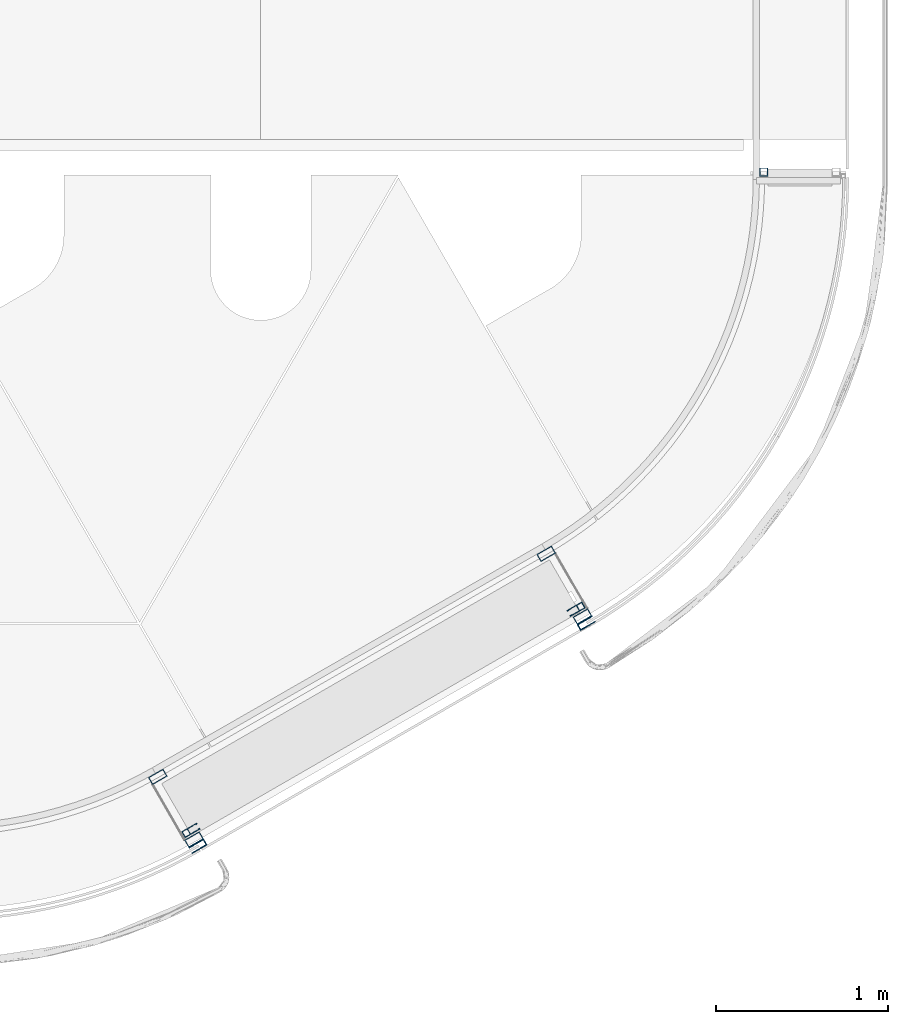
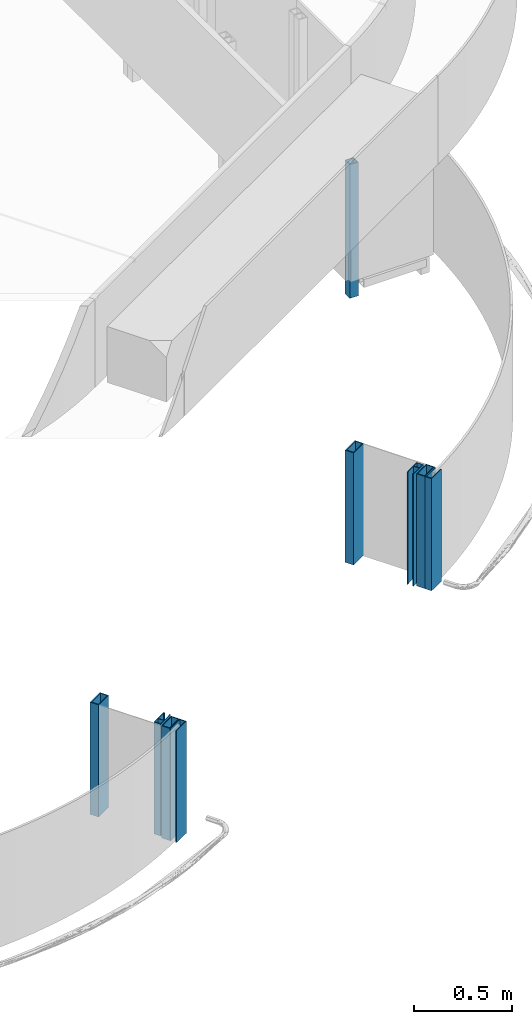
# One storey, part 3 of 18: 9 columns, 4 openings.
"""IFC2X3 building model written with IfcOpenShell, lengths in millimetres."""

import ifcopenshell
import ifcopenshell.guid

model = None  # the IFC model being written
_history = None  # IfcOwnerHistory: only IFC2X3 demands one
_inside = {}  # id of a spatial element -> (the spatial element, [elements in it])
_under = {}  # id of a project, library or spatial element -> (it, [spatial elements below it])
_declared = {}  # id of a project -> (the project, [libraries it declares])
_typed = {}  # id of a type object -> (the type object, [elements of that type])
_made_of = {}  # id of a material, layer set ... -> (it, [elements and type objects made of it])


def new_model(schema):
    """Start an empty IFC model of exactly this schema.

    Asked for "IFC4X3", IfcOpenShell would pick the latest addendum, in which some entities
    have other attributes; the version numbers below select the first issue.
    IFC2X3 requires an IfcOwnerHistory on every rooted entity: one is made here for all.
    """
    global model, _history
    if schema == "IFC4X3":
        model = ifcopenshell.file(schema_version=(4, 3, 0, 0))
    else:
        model = ifcopenshell.file(schema=schema)
    _inside.clear()
    _under.clear()
    _declared.clear()
    _typed.clear()
    _made_of.clear()
    _history = None
    if model.schema == "IFC2X3":
        org = make("IfcOrganization", Name="unknown")
        user = make(
            "IfcPersonAndOrganization",
            ThePerson=make("IfcPerson", FamilyName="unknown"),
            TheOrganization=org,
        )
        app = make(
            "IfcApplication",
            ApplicationDeveloper=org,
            Version="unknown",
            ApplicationFullName="unknown",
            ApplicationIdentifier="unknown",
        )
        _history = make(
            "IfcOwnerHistory",
            OwningUser=user,
            OwningApplication=app,
            ChangeAction="ADDED",
            CreationDate=0,
        )
    return model


def make(cls, **values):
    """One entity of the class cls with the attributes given. An attribute that is None is left unset."""
    return model.create_entity(
        cls, **{name: value for name, value in values.items() if value is not None}
    )


def entity(cls, *values):
    """Any entity or typed value of the class cls, its attributes in the order of the schema. None: left unset."""
    e = model.create_entity(cls)
    for i, value in enumerate(values):
        if value is not None:
            e[i] = value
    return e


def rooted(cls, **values):
    """An entity with a GlobalId (a new one), such as an element, a storey or a relation."""
    return make(cls, GlobalId=ifcopenshell.guid.new(), OwnerHistory=_history, **values)


def si_unit(unit_type, name, prefix=None):
    """IfcSIUnit, for example si_unit("LENGTHUNIT", "METRE", prefix="MILLI")."""
    return make("IfcSIUnit", UnitType=unit_type, Prefix=prefix, Name=name)


def converted_unit(unit_type, name, factor, base, dimensions=None, offset=None):
    """IfcConversionBasedUnit, such as the inch: factor (a typed value) times the base unit."""
    return make(
        "IfcConversionBasedUnit"
        if offset is None
        else "IfcConversionBasedUnitWithOffset",
        ConversionOffset=offset,
        Dimensions=None
        if dimensions is None
        else entity("IfcDimensionalExponents", *dimensions),
        UnitType=unit_type,
        Name=name,
        ConversionFactor=make(
            "IfcMeasureWithUnit", ValueComponent=factor, UnitComponent=base
        ),
    )


def derived_unit(unit_type, elements):
    """IfcDerivedUnit: a product of units, each with its exponent."""
    return make(
        "IfcDerivedUnit",
        Elements=[
            make("IfcDerivedUnitElement", Unit=unit, Exponent=power)
            for unit, power in elements
        ],
        UnitType=unit_type,
    )


def assignment(units):
    """IfcUnitAssignment: the units of a project."""
    return None if units is None else make("IfcUnitAssignment", Units=units)


def point(xyz):
    """IfcCartesianPoint."""
    return None if xyz is None else make("IfcCartesianPoint", Coordinates=xyz)


def direction(xyz):
    """IfcDirection."""
    return None if xyz is None else make("IfcDirection", DirectionRatios=xyz)


def frame(location, z_axis=None, x_axis=None):
    """IfcAxis2Placement3D, a coordinate frame: its origin and axes. An axis left out is left unset."""
    return make(
        "IfcAxis2Placement3D",
        Location=point(location),
        Axis=direction(z_axis),
        RefDirection=direction(x_axis),
    )


def frame_2d(location, x_axis=None):
    """IfcAxis2Placement2D, a coordinate frame in the plane: its origin and x axis."""
    return make(
        "IfcAxis2Placement2D", Location=point(location), RefDirection=direction(x_axis)
    )


def origin():
    """The frame at (0, 0, 0) with its axes left unset."""
    return frame((0.0, 0.0, 0.0))


def origin_with_axes():
    """The frame at (0, 0, 0) with the z axis (0, 0, 1) and the x axis (1, 0, 0) written out."""
    return frame((0.0, 0.0, 0.0), z_axis=(0.0, 0.0, 1.0), x_axis=(1.0, 0.0, 0.0))


def origin_2d_with_axis():
    """The frame at (0, 0) in the plane with the x axis (1, 0) written out."""
    return frame_2d((0.0, 0.0), x_axis=(1.0, 0.0))


def place(relative_to, where):
    """IfcLocalPlacement: puts the frame where relative to a parent placement (None: the world)."""
    return make(
        "IfcLocalPlacement", PlacementRelTo=relative_to, RelativePlacement=where
    )


def context(
    kind, dimensions, precision=None, world=None, true_north=None, identifier=None
):
    """IfcGeometricRepresentationContext, for example the 3D "Model" context."""
    return make(
        "IfcGeometricRepresentationContext",
        ContextIdentifier=identifier,
        ContextType=kind,
        CoordinateSpaceDimension=dimensions,
        Precision=precision,
        WorldCoordinateSystem=world,
        TrueNorth=true_north,
    )


def subcontext(parent, identifier, kind, view, scale=None):
    """IfcGeometricRepresentationSubContext, for example "Body" below "Model"."""
    return make(
        "IfcGeometricRepresentationSubContext",
        ContextIdentifier=identifier,
        ContextType=kind,
        ParentContext=parent,
        TargetScale=scale,
        TargetView=view,
    )


def project(units=None, contexts=None):
    """IfcProject with its units and contexts."""
    return rooted(
        "IfcProject",
        Name="project",
        RepresentationContexts=contexts,
        UnitsInContext=assignment(units),
    )


def spatial(cls, under=None, at=None, **own):
    """A site, building, storey or space (cls), placed at a placement, below another one or the project."""
    s = rooted(cls, ObjectPlacement=at, **own)
    if under is not None:
        _under.setdefault(under.id(), (under, []))[1].append(s)
    return s


def polyline(points):
    """IfcPolyline through the points."""
    return make("IfcPolyline", Points=[point(p) for p in points])


def profile(cls, at=None, kind="AREA", **sizes):
    """A parametric profile (cls). Its sizes go by their IFC names, for example OverallWidth=200.0."""
    return make(cls, ProfileType=kind, Position=at, **sizes)


def rectangle(**sizes):
    """IfcRectangleProfileDef."""
    return profile("IfcRectangleProfileDef", **sizes)


def outline(outer, holes=None, kind="AREA"):
    """IfcArbitraryClosedProfileDef: a profile drawn as a closed curve; with holes, ...WithVoids."""
    if holes is None:
        return make("IfcArbitraryClosedProfileDef", ProfileType=kind, OuterCurve=outer)
    return make(
        "IfcArbitraryProfileDefWithVoids",
        ProfileType=kind,
        OuterCurve=outer,
        InnerCurves=holes,
    )


def extrude(swept, where, along, depth):
    """IfcExtrudedAreaSolid: the profile swept, set in the frame where, extruded along a direction by depth."""
    return make(
        "IfcExtrudedAreaSolid",
        SweptArea=swept,
        Position=where,
        ExtrudedDirection=direction(along),
        Depth=depth,
    )


def faces_of(points, faces, orient=None, outer=None):
    """IfcFace entities. A face is a list of loops; a loop is a list of indices into points, from 0.

    orient and outer hold one flag for each loop. By default every Orientation is true, the
    first loop of a face is its IfcFaceOuterBound and the others are IfcFaceBound.
    """
    made = []
    for i, loops in enumerate(faces):
        bounds = []
        for j, loop in enumerate(loops):
            is_outer = j == 0 if outer is None else outer[i][j]
            bounds.append(
                make(
                    "IfcFaceOuterBound" if is_outer else "IfcFaceBound",
                    Bound=make("IfcPolyLoop", Polygon=[points[k] for k in loop]),
                    Orientation=True if orient is None else orient[i][j],
                )
            )
        made.append(make("IfcFace", Bounds=bounds))
    return made


def faceted_brep(points, faces, orient=None, outer=None, voids=None):
    """IfcFacetedBrep: a solid bounded by flat faces; with voids (closed shells), ...WithVoids."""
    shared = [point(p) for p in points]
    hull = make("IfcClosedShell", CfsFaces=faces_of(shared, faces, orient, outer))
    if voids is None:
        return make("IfcFacetedBrep", Outer=hull)
    return make(
        "IfcFacetedBrepWithVoids",
        Outer=hull,
        Voids=[
            make(cls, CfsFaces=faces_of(shared, fs, o, b)) for cls, fs, o, b in voids
        ],
    )


def shape(context_of_items, identifier, shape_type, items):
    """IfcShapeRepresentation: the items that make up one representation, for example the "Body"."""
    return make(
        "IfcShapeRepresentation",
        ContextOfItems=context_of_items,
        RepresentationIdentifier=identifier,
        RepresentationType=shape_type,
        Items=items,
    )


def source(mapping_origin, context_of_items, identifier, shape_type, items):
    """IfcRepresentationMap: a shape defined once, which mapped items show again and again."""
    return make(
        "IfcRepresentationMap",
        MappingOrigin=mapping_origin,
        MappedRepresentation=shape(context_of_items, identifier, shape_type, items),
    )


def transform(
    local_origin,
    x_axis=None,
    y_axis=None,
    z_axis=None,
    scale=None,
    scale2=None,
    scale3=None,
    uniform=True,
):
    """IfcCartesianTransformationOperator3D, or its non-uniform kind. x_axis, y_axis, z_axis: its Axis1, 2, 3."""
    if uniform:
        return make(
            "IfcCartesianTransformationOperator3D",
            Axis1=direction(x_axis),
            Axis2=direction(y_axis),
            LocalOrigin=point(local_origin),
            Scale=scale,
            Axis3=direction(z_axis),
        )
    return make(
        "IfcCartesianTransformationOperator3DnonUniform",
        Axis1=direction(x_axis),
        Axis2=direction(y_axis),
        LocalOrigin=point(local_origin),
        Scale=scale,
        Axis3=direction(z_axis),
        Scale2=scale2,
        Scale3=scale3,
    )


def mapped(mapping_source, mapping_target):
    """IfcMappedItem: shows the shape of a source again, moved by a transform."""
    return make(
        "IfcMappedItem", MappingSource=mapping_source, MappingTarget=mapping_target
    )


def material(Name=None, Category=None):
    """IfcMaterial."""
    return make("IfcMaterial", Name=Name, Category=Category)


def made_of(thing, what):
    """Note that an element or type object is made of a material, layer set ...; save() writes the relation."""
    if what is not None:
        _made_of.setdefault(what.id(), (what, []))[1].append(thing)
    return thing


def type_object(cls, material=None, **own):
    """A type object (cls), such as IfcWallType, which elements share."""
    return made_of(rooted(cls, **own), material)


def element(
    cls,
    number,
    at=None,
    inside=None,
    cuts=None,
    type_object=None,
    material=None,
    context=None,
    identifier="Body",
    shape_type=None,
    held_by="IfcProductDefinitionShape",
    body=None,
    shapes=None,
    **own,
):
    """One element of the class cls, such as IfcWall. Its Tag is "e" and its number.

    at: its placement. inside: the storey or other place that contains it. cuts: it is an
    opening in that element (IfcRelVoidsElement). A single representation is given by context,
    identifier, shape_type and body (its items); several are given by shapes. held_by: the class
    of the entity that holds the representations. save() writes the other relations.
    """
    e = rooted(cls, Tag="e%d" % number, ObjectPlacement=at, **own)
    if body is not None:
        shapes = [shape(context, identifier, shape_type, body)]
    if shapes is not None:
        e.Representation = make(held_by, Representations=shapes)
    if inside is not None:
        _inside.setdefault(inside.id(), (inside, []))[1].append(e)
    if cuts is not None:
        rooted(
            "IfcRelVoidsElement", RelatingBuildingElement=cuts, RelatedOpeningElement=e
        )
    if type_object is not None:
        _typed.setdefault(type_object.id(), (type_object, []))[1].append(e)
    return made_of(e, material)


def aggregate(whole, parts):
    """IfcRelAggregates: a whole, such as a stair, and the parts it consists of."""
    return rooted("IfcRelAggregates", RelatingObject=whole, RelatedObjects=parts)


def save(model, path):
    """Write the relations noted so far, then the file.

    IfcRelAggregates (storeys below a building ...), IfcRelContainedInSpatialStructure (elements
    in a storey), IfcRelDefinesByType, IfcRelAssociatesMaterial and IfcRelDeclares: one each for
    every whole, place, type object, material and project.
    """
    for whole, parts in _under.values():
        aggregate(whole, parts)
    for where, things in _inside.values():
        rooted(
            "IfcRelContainedInSpatialStructure",
            RelatedElements=things,
            RelatingStructure=where,
        )
    for kind, things in _typed.values():
        rooted("IfcRelDefinesByType", RelatedObjects=things, RelatingType=kind)
    for what, things in _made_of.values():
        rooted("IfcRelAssociatesMaterial", RelatedObjects=things, RelatingMaterial=what)
    for by, libraries in _declared.values():
        rooted("IfcRelDeclares", RelatingContext=by, RelatedDefinitions=libraries)
    model.write(path)


model = new_model("IFC2X3")

# Units and contexts
model_context = context("Model", 3, precision=0.01, world=frame((0.0, 4.29681676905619e-09, 0.0)), true_north=direction((4.01073788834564e-13, 1.0)))
plan_context = context("Plan", 3, precision=0.01, world=frame((0.0, 4.29681676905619e-09, 0.0)), true_north=direction((4.01073788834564e-13, 1.0)))
body_context = subcontext(model_context, "Body", "Model", "MODEL_VIEW")
ifc_project = project(units=[converted_unit("PLANEANGLEUNIT", "DEGREE", entity("IfcPositiveLengthMeasure", 0.0174532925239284), si_unit("PLANEANGLEUNIT", "RADIAN"), dimensions=[0, 0, 0, 0, 0, 0, 0]), si_unit("AREAUNIT", "SQUARE_METRE"), si_unit("LENGTHUNIT", "METRE", prefix="MILLI"), si_unit("MASSUNIT", "GRAM", prefix="KILO"), si_unit("POWERUNIT", "WATT"), si_unit("PRESSUREUNIT", "PASCAL"), si_unit("FORCEUNIT", "NEWTON", prefix="KILO"), si_unit("ELECTRICVOLTAGEUNIT", "VOLT"), si_unit("ELECTRICCURRENTUNIT", "AMPERE"), si_unit("THERMODYNAMICTEMPERATUREUNIT", "DEGREE_CELSIUS"), si_unit("TIMEUNIT", "SECOND"), si_unit("VOLUMEUNIT", "CUBIC_METRE"), derived_unit("LINEARVELOCITYUNIT", [(si_unit("LENGTHUNIT", "METRE"), 1), (si_unit("TIMEUNIT", "SECOND"), -1)]), derived_unit("VOLUMETRICFLOWRATEUNIT", [(si_unit("VOLUMEUNIT", "CUBIC_METRE"), 1), (si_unit("TIMEUNIT", "SECOND"), -1)]), derived_unit("THERMALTRANSMITTANCEUNIT", [(si_unit("POWERUNIT", "WATT"), 1), (si_unit("THERMODYNAMICTEMPERATUREUNIT", "KELVIN"), -1), (si_unit("AREAUNIT", "SQUARE_METRE"), -1)]), derived_unit("SOUNDPRESSUREUNIT", [(si_unit("PRESSUREUNIT", "PASCAL"), 1)])], contexts=[model_context, plan_context])

# Site, building, storey
site_placement = place(None, origin_with_axes())
site = spatial("IfcSite", under=ifc_project, at=site_placement, Name="ENGM", CompositionType="ELEMENT")
building_placement = place(site_placement, origin_with_axes())
building = spatial("IfcBuilding", under=site, at=building_placement, Name="TH", CompositionType="ELEMENT")
storey_placement = place(building_placement, frame((0.0, 0.0, 210200.0), z_axis=(0.0, 0.0, 1.0), x_axis=(1.0, 0.0, 0.0)))
storey = spatial("IfcBuildingStorey", under=building, at=storey_placement, Name="Nivå F - 0,7 m", CompositionType="ELEMENT", Elevation=210200.0)

# Columns
ifc_material = material(Name="_NSW Stål")
column_type_1 = type_object("IfcColumnType", Name="A243 - Rullegardinskinner:A243 - Portskinne Book Shop", PredefinedType="COLUMN", material=ifc_material)
shared_shape_1 = source(origin(), body_context, "Body", "Brep", [
    faceted_brep([(-20.0, -100.0, 210200.0), (-20.0, 0.0, 210200.0), (20.0, 0.0, 210200.0), (20.0, -100.0, 210200.0), (14.0, -100.0, 210200.0), (14.0, -90.0, 210200.0), (17.0, -90.0, 210200.0), (17.0, -38.0, 210200.0), (-17.0, -38.0, 210200.0), (-17.0, -90.0, 210200.0), (-14.0, -90.0, 210200.0), (-14.0, -100.0, 210200.0), (-17.0, -35.0, 210200.0), (17.0, -35.0, 210200.0), (17.0, -3.0, 210200.0), (-17.0, -3.0, 210200.0), (-14.0, -100.0, 210900.0), (-20.0, -100.0, 210900.0), (-14.0, -90.0, 210900.0), (-17.0, -90.0, 210900.0), (-17.0, -38.0, 210900.0), (17.0, -38.0, 210900.0), (17.0, -90.0, 210900.0), (14.0, -90.0, 210900.0), (14.0, -100.0, 210900.0), (20.0, -100.0, 210900.0), (20.0, 0.0, 210900.0), (-20.0, 0.0, 210900.0), (-17.0, -3.0, 210900.0), (-17.0, -35.0, 210900.0), (17.0, -3.0, 210900.0), (17.0, -35.0, 210900.0)], [[[0, 1, 2, 3, 4, 5, 6, 7, 8, 9, 10, 11], [12, 13, 14, 15]], [[0, 11, 16, 17]], [[11, 10, 18, 16]], [[10, 9, 19, 18]], [[9, 8, 20, 19]], [[8, 7, 21, 20]], [[7, 6, 22, 21]], [[6, 5, 23, 22]], [[5, 4, 24, 23]], [[4, 3, 25, 24]], [[3, 2, 26, 25]], [[2, 1, 27, 26]], [[1, 0, 17, 27]], [[12, 15, 28, 29]], [[15, 14, 30, 28]], [[14, 13, 31, 30]], [[13, 12, 29, 31]], [[17, 16, 18, 19, 20, 21, 22, 23, 24, 25, 26, 27], [29, 28, 30, 31]]]),
])
column_1_placement = place(storey_placement, frame((908874.102285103, 478210.13855746, -210200.0), z_axis=(0.0, 0.0, 1.0), x_axis=(0.499999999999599, -0.86602540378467, 0.0)))
element("IfcColumn", 1, at=column_1_placement, inside=storey, type_object=column_type_1, material=ifc_material, Name="A243 - Rullegardinskinner:A243 - Portskinne Book Shop", ObjectType="A243 - Rullegardinskinner:A243 - Portskinne Book Shop", context=body_context, shape_type="MappedRepresentation", body=[
    mapped(shared_shape_1, transform((0.0, 0.0, 0.0), scale=1.0)),
])
column_type_2 = type_object("IfcColumnType", Name="A241 - Glassramme Book Shop:A241 - 100x40mm", PredefinedType="COLUMN", material=ifc_material)
shared_shape_2 = source(origin(), body_context, "Body", "Brep", [
    faceted_brep([(-20.0, 50.0, 210200.0), (-15.0, 50.0, 210200.0), (-15.0, -45.0, 210200.0), (15.0, -45.0, 210200.0), (15.0, 50.0, 210200.0), (20.0, 50.0, 210200.0), (20.0, -50.0, 210200.0), (-20.0, -50.0, 210200.0), (-20.0, 50.0, 210900.0), (-15.0, 50.0, 210900.0), (-15.0, -45.0, 210900.0), (15.0, -45.0, 210900.0), (15.0, 50.0, 210900.0), (20.0, 50.0, 210900.0), (20.0, -50.0, 210900.0), (-20.0, -50.0, 210900.0)], [[[0, 1, 2, 3, 4, 5, 6, 7]], [[1, 0, 8, 9]], [[2, 1, 9, 10]], [[3, 2, 10, 11]], [[4, 3, 11, 12]], [[5, 4, 12, 13]], [[6, 5, 13, 14]], [[7, 6, 14, 15]], [[0, 7, 15, 8]], [[9, 8, 15, 14, 13, 12, 11, 10]]]),
])
column_2_placement = place(storey_placement, frame((908890.455786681, 478104.15850772, -210200.0), z_axis=(0.0, 0.0, 1.0), x_axis=(0.499999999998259, -0.866025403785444, 0.0)))
element("IfcColumn", 2, at=column_2_placement, inside=storey, type_object=column_type_2, material=ifc_material, Name="A241 - Glassramme Book Shop:A241 - 100x40mm", ObjectType="A241 - Glassramme Book Shop:A241 - 100x40mm", context=body_context, shape_type="MappedRepresentation", body=[
    mapped(shared_shape_2, transform((0.0, 0.0, 0.0), scale=1.0)),
])
column_type_3 = type_object("IfcColumnType", Name="B222 - HUP7:B222 - HUP 50x50x5", PredefinedType="COLUMN", material=ifc_material)
shared_shape_3 = source(origin(), body_context, "Body", "SweptSolid", [
    extrude(outline(polyline([(-25.0, -25.0), (25.0, -25.0), (25.0, 25.0), (-25.0, 25.0), (-25.0, -25.0)]), holes=[polyline([(-20.0, -20.0), (-20.0, 20.0), (20.0, 20.0), (20.0, -20.0), (-20.0, -20.0)])]), frame((0.0, 0.0, 210065.0), z_axis=(0.0, 0.0, 1.0), x_axis=(-1.0, 0.0, 0.0)), (0.0, 0.0, 1.0), 835.000000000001),
])
column_3_placement = place(storey_placement, frame((909920.000000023, 480720.579202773, -210200.0), z_axis=(0.0, 0.0, 1.0), x_axis=(0.0, 1.0, 0.0)))
element("IfcColumn", 3, at=column_3_placement, inside=storey, type_object=column_type_3, material=ifc_material, Name="B222 - HUP7:B222 - HUP 50x50x5", ObjectType="B222 - HUP7:B222 - HUP 50x50x5", context=body_context, shape_type="MappedRepresentation", body=[
    mapped(shared_shape_3, transform((0.0, 0.0, 0.0), scale=1.0)),
])

# Column, opening
column_type_4 = type_object("IfcColumnType", Name="B222 - HUP7:B222 - HUP 100x50x5", PredefinedType="COLUMN", material=ifc_material)
shared_shape_4 = source(origin(), body_context, "Body", "SweptSolid", [
    extrude(rectangle(XDim=700.000000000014, YDim=100.0, at=frame_2d((-1.73372427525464e-11, 0.0), x_axis=(1.0, 0.0))), frame((-25.0, 0.0, 210550.0), z_axis=(1.0, 0.0, 0.0), x_axis=(0.0, 0.0, 1.0)), (0.0, 0.0, 1.0), 50.0),
])
column_4_placement = place(storey_placement, frame((908657.956971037, 478506.858269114, -210200.0), z_axis=(0.0, 0.0, 1.0), x_axis=(-0.500000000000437, 0.866025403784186, 0.0)))
column_4 = element("IfcColumn", 4, at=column_4_placement, inside=storey, type_object=column_type_4, material=ifc_material, Name="B222 - HUP7:B222 - HUP 100x50x5", ObjectType="B222 - HUP7:B222 - HUP 100x50x5", context=body_context, shape_type="MappedRepresentation", body=[
    mapped(shared_shape_4, transform((0.0, 0.0, 0.0), scale=1.0)),
])
opening_1_placement = place(column_4_placement, frame((0.0, 0.0, 210200.0), z_axis=(0.0, 0.0, 1.0), x_axis=(-0.500000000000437, 0.866025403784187, 0.0)))
element("IfcOpeningElement", 5, at=opening_1_placement, cuts=column_4, Name="B222 - HUP7:B222 - HUP 100x50x5:1", ObjectType="Opening", context=body_context, shape_type="SweptSolid", body=[
    extrude(rectangle(XDim=90.0, YDim=39.9999999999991, at=origin_2d_with_axis()), frame((0.0, 0.0, 0.0), z_axis=(0.0, 0.0, 1.0), x_axis=(0.866025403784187, -0.500000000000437, 0.0)), (0.0, 0.0, 1.0), 700.000000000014),
])

column_type_5 = type_object("IfcColumnType", Name="B222 - HUP7:B222 - HUP 100x50x5", PredefinedType="COLUMN", material=ifc_material)
column_5_placement = place(storey_placement, frame((908867.955786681, 478143.12965089, -210200.0), z_axis=(0.0, 0.0, 1.0), x_axis=(-0.500000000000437, 0.866025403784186, 0.0)))
column_5 = element("IfcColumn", 6, at=column_5_placement, inside=storey, type_object=column_type_5, material=ifc_material, Name="B222 - HUP7:B222 - HUP 100x50x5", ObjectType="B222 - HUP7:B222 - HUP 100x50x5", context=body_context, shape_type="MappedRepresentation", body=[
    mapped(shared_shape_4, transform((0.0, 0.0, 0.0), scale=1.0)),
])
opening_2_placement = place(column_5_placement, frame((0.0, 0.0, 210200.0), z_axis=(0.0, 0.0, 1.0), x_axis=(-0.500000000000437, 0.866025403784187, 0.0)))
element("IfcOpeningElement", 7, at=opening_2_placement, cuts=column_5, Name="B222 - HUP7:B222 - HUP 100x50x5:1", ObjectType="Opening", context=body_context, shape_type="SweptSolid", body=[
    extrude(rectangle(XDim=90.0, YDim=39.9999999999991, at=origin_2d_with_axis()), frame((0.0, 0.0, 0.0), z_axis=(0.0, 0.0, 1.0), x_axis=(0.866025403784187, -0.500000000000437, 0.0)), (0.0, 0.0, 1.0), 700.000000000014),
])

# Columns
column_type_6 = type_object("IfcColumnType", Name="A243 - Rullegardinskinner:A243 - Portskinne Book Shop", PredefinedType="COLUMN", material=ifc_material)
shared_shape_5 = source(origin(), body_context, "Body", "Brep", [
    faceted_brep([(-20.0, 100.0, 210200.0), (-14.0, 100.0, 210200.0), (-14.0, 90.0, 210200.0), (-17.0, 90.0, 210200.0), (-17.0, 38.0, 210200.0), (17.0, 38.0, 210200.0), (17.0, 90.0, 210200.0), (14.0, 90.0, 210200.0), (14.0, 100.0, 210200.0), (20.0, 100.0, 210200.0), (20.0, 0.0, 210200.0), (-20.0, 0.0, 210200.0), (-17.0, 35.0, 210200.0), (-17.0, 3.0, 210200.0), (17.0, 3.0, 210200.0), (17.0, 35.0, 210200.0), (-20.0, 100.0, 210900.0), (-14.0, 100.0, 210900.0), (-14.0, 90.0, 210900.0), (-17.0, 90.0, 210900.0), (-17.0, 38.0, 210900.0), (17.0, 38.0, 210900.0), (17.0, 90.0, 210900.0), (14.0, 90.0, 210900.0), (14.0, 100.0, 210900.0), (20.0, 100.0, 210900.0), (20.0, 0.0, 210900.0), (-20.0, 0.0, 210900.0), (-17.0, 35.0, 210900.0), (-17.0, 3.0, 210900.0), (17.0, 3.0, 210900.0), (17.0, 35.0, 210900.0)], [[[0, 1, 2, 3, 4, 5, 6, 7, 8, 9, 10, 11], [12, 13, 14, 15]], [[1, 0, 16, 17]], [[2, 1, 17, 18]], [[3, 2, 18, 19]], [[4, 3, 19, 20]], [[5, 4, 20, 21]], [[6, 5, 21, 22]], [[7, 6, 22, 23]], [[8, 7, 23, 24]], [[9, 8, 24, 25]], [[10, 9, 25, 26]], [[11, 10, 26, 27]], [[0, 11, 27, 16]], [[13, 12, 28, 29]], [[14, 13, 29, 30]], [[15, 14, 30, 31]], [[12, 15, 31, 28]], [[17, 16, 27, 26, 25, 24, 23, 22, 21, 20, 19, 18], [29, 28, 31, 30]]]),
])
column_6_placement = place(storey_placement, frame((906553.829809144, 476877.658464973, -210200.0), z_axis=(0.0, 0.0, 1.0), x_axis=(0.500000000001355, -0.866025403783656, 0.0)))
element("IfcColumn", 8, at=column_6_placement, inside=storey, type_object=column_type_6, material=ifc_material, Name="A243 - Rullegardinskinner:A243 - Portskinne Book Shop", ObjectType="A243 - Rullegardinskinner:A243 - Portskinne Book Shop", context=body_context, shape_type="MappedRepresentation", body=[
    mapped(shared_shape_5, transform((0.0, 0.0, 0.0), scale=1.0)),
])
column_type_7 = type_object("IfcColumnType", Name="A241 - Glassramme Book Shop:A241 - 100x40mm", PredefinedType="COLUMN", material=ifc_material)
shared_shape_6 = source(origin(), body_context, "Body", "Brep", [
    faceted_brep([(-20.0, -50.0, 210200.0), (-20.0, 50.0, 210200.0), (20.0, 50.0, 210200.0), (20.0, -50.0, 210200.0), (15.0, -50.0, 210200.0), (15.0, 45.0, 210200.0), (-15.0, 45.0, 210200.0), (-15.0, -50.0, 210200.0), (-15.0, -50.0, 210900.0), (-20.0, -50.0, 210900.0), (-15.0, 45.0, 210900.0), (15.0, 45.0, 210900.0), (15.0, -50.0, 210900.0), (20.0, -50.0, 210900.0), (20.0, 50.0, 210900.0), (-20.0, 50.0, 210900.0)], [[[0, 1, 2, 3, 4, 5, 6, 7]], [[0, 7, 8, 9]], [[7, 6, 10, 8]], [[6, 5, 11, 10]], [[5, 4, 12, 11]], [[4, 3, 13, 12]], [[3, 2, 14, 13]], [[2, 1, 15, 14]], [[1, 0, 9, 15]], [[9, 8, 10, 11, 12, 13, 14, 15]]]),
])
column_7_placement = place(storey_placement, frame((906637.434473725, 476810.505892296, -210200.0), z_axis=(0.0, 0.0, 1.0), x_axis=(0.500000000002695, -0.866025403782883, 0.0)))
element("IfcColumn", 9, at=column_7_placement, inside=storey, type_object=column_type_7, material=ifc_material, Name="A241 - Glassramme Book Shop:A241 - 100x40mm", ObjectType="A241 - Glassramme Book Shop:A241 - 100x40mm", context=body_context, shape_type="MappedRepresentation", body=[
    mapped(shared_shape_6, transform((0.0, 0.0, 0.0), scale=1.0)),
])

# Column, opening
column_type_8 = type_object("IfcColumnType", Name="B222 - HUP7:B222 - HUP 100x50x5", PredefinedType="COLUMN", material=ifc_material)
shared_shape_7 = source(origin(), body_context, "Body", "SweptSolid", [
    extrude(rectangle(XDim=700.000000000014, YDim=100.0, at=frame_2d((-1.73372427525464e-11, 0.0), x_axis=(1.0, 0.0))), frame((-25.0, 0.0, 210550.0), z_axis=(1.0, 0.0, 0.0), x_axis=(0.0, 0.0, 1.0)), (0.0, 0.0, 1.0), 50.0),
])
column_8_placement = place(storey_placement, frame((906404.93565808, 477213.20565369, -210200.0), z_axis=(0.0, 0.0, 1.0), x_axis=(-0.500000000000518, 0.86602540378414, 0.0)))
column_8 = element("IfcColumn", 10, at=column_8_placement, inside=storey, type_object=column_type_8, material=ifc_material, Name="B222 - HUP7:B222 - HUP 100x50x5", ObjectType="B222 - HUP7:B222 - HUP 100x50x5", context=body_context, shape_type="MappedRepresentation", body=[
    mapped(shared_shape_7, transform((0.0, 0.0, 0.0), scale=1.0)),
])
opening_3_placement = place(column_8_placement, frame((0.0, 0.0, 210200.0), z_axis=(0.0, 0.0, 1.0), x_axis=(-0.500000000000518, 0.86602540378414, 0.0)))
element("IfcOpeningElement", 11, at=opening_3_placement, cuts=column_8, Name="B222 - HUP7:B222 - HUP 100x50x5:1", ObjectType="Opening", context=body_context, shape_type="SweptSolid", body=[
    extrude(rectangle(XDim=90.0, YDim=39.9999999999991, at=origin_2d_with_axis()), frame((0.0, 0.0, 700.0), z_axis=(0.0, 0.0, -1.0), x_axis=(-0.86602540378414, 0.500000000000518, 0.0)), (0.0, 0.0, 1.0), 700.000000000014),
])

column_type_9 = type_object("IfcColumnType", Name="B222 - HUP7:B222 - HUP 100x50x5", PredefinedType="COLUMN", material=ifc_material)
column_9_placement = place(storey_placement, frame((906614.934473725, 476849.477035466, -210200.0), z_axis=(0.0, 0.0, 1.0), x_axis=(-0.500000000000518, 0.86602540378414, 0.0)))
column_9 = element("IfcColumn", 12, at=column_9_placement, inside=storey, type_object=column_type_9, material=ifc_material, Name="B222 - HUP7:B222 - HUP 100x50x5", ObjectType="B222 - HUP7:B222 - HUP 100x50x5", context=body_context, shape_type="MappedRepresentation", body=[
    mapped(shared_shape_7, transform((0.0, 0.0, 0.0), scale=1.0)),
])
opening_4_placement = place(column_9_placement, frame((0.0, 0.0, 210200.0), z_axis=(0.0, 0.0, 1.0), x_axis=(-0.500000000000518, 0.86602540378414, 0.0)))
element("IfcOpeningElement", 13, at=opening_4_placement, cuts=column_9, Name="B222 - HUP7:B222 - HUP 100x50x5:1", ObjectType="Opening", context=body_context, shape_type="SweptSolid", body=[
    extrude(rectangle(XDim=90.0, YDim=39.9999999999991, at=origin_2d_with_axis()), frame((0.0, 0.0, 700.0), z_axis=(0.0, 0.0, -1.0), x_axis=(-0.86602540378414, 0.500000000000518, 0.0)), (0.0, 0.0, 1.0), 700.000000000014),
])

save(model, "model.ifc")
